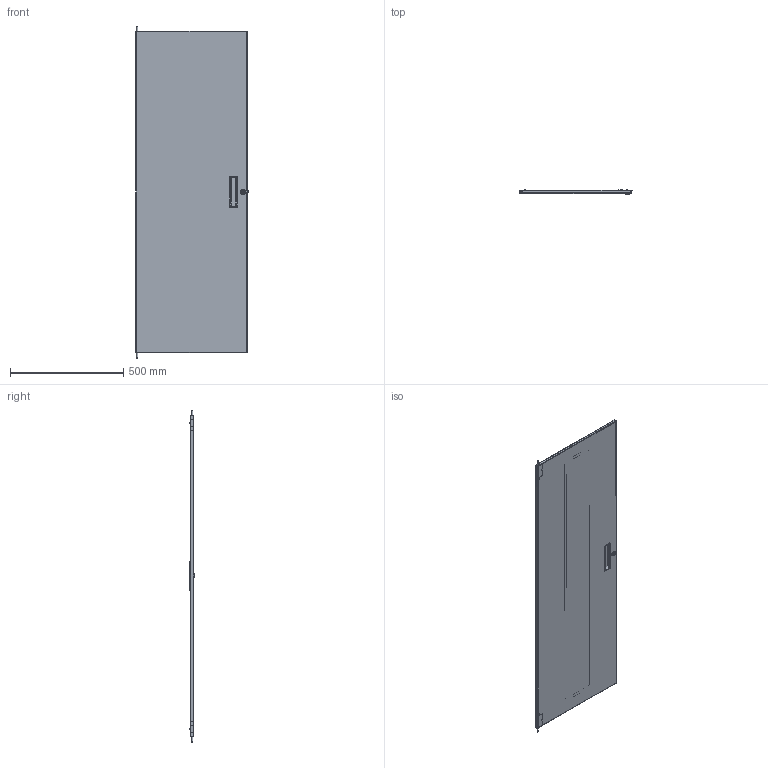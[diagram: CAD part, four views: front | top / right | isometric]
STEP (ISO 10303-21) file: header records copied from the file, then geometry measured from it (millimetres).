
FILE_DESCRIPTION( ( 'Unknown' ), '1' );
FILE_NAME( 'Q:/WEB DRAWINGS/STEP/CDF1956S.stp', 'Unknown', ( 'Unknown' ), ( 'Unknown' ), 'PSStep 17.0.49', 'Unknown', ' ' );
FILE_SCHEMA( ( 'AUTOMOTIVE_DESIGN { 1 0 10303 214 1 1 1 1 }' ) );
Length unit declared in the file: millimetre
Products named in the file (10): COM54617; HNG14581; std26020; COM53525; COM40862; Assem1; LOC13312; HAN13044; PIN17620
Assembly tree (11 placements, depth 4):
  Assem1
    LOC13312
    HAN13044
    PIN17620  x2
    COM53525
      COM40862
      COM53525
      COM54617  x2
        HNG14581
        std26020
Bounding box: 496.67 x 19.96 x 1463.95 mm (x, y, z)
Volume: 1420548.6 mm3; surface area: 2024285.2 mm2
Topology: 10 solids, 10 shells, 298 faces, 721 edges, 458 vertices
Faces by surface type: plane 203, cylinder 70, bspline 12, cone 9, torus 4
Full cylindrical faces by diameter (mm): 4.775 x2, 5.182 x2, 6.35 x8, 8.382 x1, 13.868 x1, 13.97 x1, 21.996 x1
Entity records: 10256 total; most frequent: CARTESIAN_POINT 1910, ORIENTED_EDGE 1240, DIRECTION 1230, EDGE_CURVE 620, LINE 466, VECTOR 466, VERTEX_POINT 402, AXIS2_PLACEMENT_3D 382
